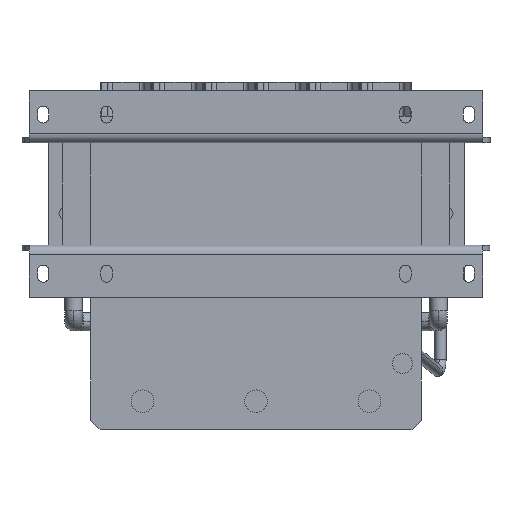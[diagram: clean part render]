
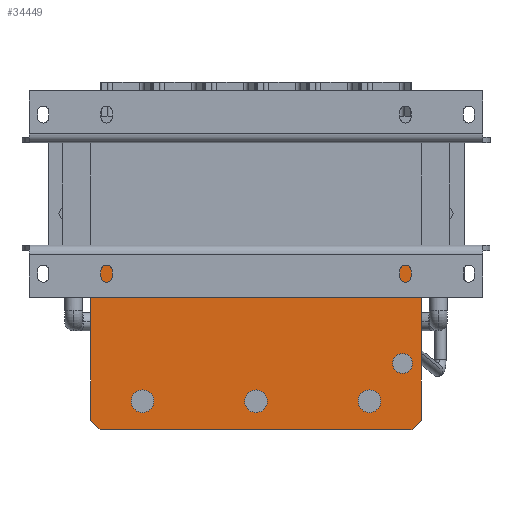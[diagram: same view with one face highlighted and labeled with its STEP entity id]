
A CAD part, front view. The second image highlights one B-rep face of the part: STEP entity #34449.
In plain terms, the highlighted planar face has unit normal (0, -1, 0).
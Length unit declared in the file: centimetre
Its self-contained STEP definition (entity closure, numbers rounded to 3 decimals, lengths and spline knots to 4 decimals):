
#328 = VERTEX_POINT ( 'NONE', #19195 ) ;
#551 = CARTESIAN_POINT ( 'NONE',  ( 0., 6.23, -21.915 ) ) ;
#855 = ORIENTED_EDGE ( 'NONE', *, *, #23380, .F. ) ;
#1617 = FACE_BOUND ( 'NONE', #24390, .T. ) ;
#1691 = CARTESIAN_POINT ( 'NONE',  ( 0., 6.23, -20.715 ) ) ;
#2531 = CARTESIAN_POINT ( 'NONE',  ( 17.5, 6.23, -23.915 ) ) ;
#3051 = VERTEX_POINT ( 'NONE', #11539 ) ;
#3244 = DIRECTION ( 'NONE',  ( 0., -1., 0. ) ) ;
#3382 = AXIS2_PLACEMENT_3D ( 'NONE', #551, #11335, #37464 ) ;
#3612 = EDGE_CURVE ( 'NONE', #3051, #18095, #20351, .T. ) ;
#3657 = CARTESIAN_POINT ( 'NONE',  ( -17.5, 6.23, -23.915 ) ) ;
#3889 = ORIENTED_EDGE ( 'NONE', *, *, #14492, .T. ) ;
#3925 = VECTOR ( 'NONE', #33880, 100. ) ;
#4267 = AXIS2_PLACEMENT_3D ( 'NONE', #9110, #23662, #19542 ) ;
#4675 = VERTEX_POINT ( 'NONE', #13577 ) ;
#4972 = EDGE_LOOP ( 'NONE', ( #12529, #3889, #37150, #10847, #15963, #7755 ) ) ;
#5046 = FACE_BOUND ( 'NONE', #7833, .T. ) ;
#5123 = LINE ( 'NONE', #36342, #5289 ) ;
#5247 = DIRECTION ( 'NONE',  ( -1., 0., 0. ) ) ;
#5289 = VECTOR ( 'NONE', #30457, 100. ) ;
#5317 = LINE ( 'NONE', #22311, #3925 ) ;
#5455 = ORIENTED_EDGE ( 'NONE', *, *, #26991, .F. ) ;
#6029 = DIRECTION ( 'NONE',  ( 0., 0., 1. ) ) ;
#7123 = VECTOR ( 'NONE', #14047, 100. ) ;
#7300 = DIRECTION ( 'NONE',  ( 0., 0., -1. ) ) ;
#7755 = ORIENTED_EDGE ( 'NONE', *, *, #10425, .T. ) ;
#7833 = EDGE_LOOP ( 'NONE', ( #16557, #5455 ) ) ;
#8090 = ORIENTED_EDGE ( 'NONE', *, *, #12636, .F. ) ;
#8246 = CIRCLE ( 'NONE', #34234, 1.2 ) ;
#9110 = CARTESIAN_POINT ( 'NONE',  ( 15.5, 6.23, -17.915 ) ) ;
#10006 = CIRCLE ( 'NONE', #3382, 1.2 ) ;
#10262 = CARTESIAN_POINT ( 'NONE',  ( -12., 6.23, -21.915 ) ) ;
#10315 = EDGE_CURVE ( 'NONE', #35866, #17818, #21487, .T. ) ;
#10425 = EDGE_CURVE ( 'NONE', #29152, #27342, #12802, .T. ) ;
#10707 = DIRECTION ( 'NONE',  ( 0.707, 0., 0.707 ) ) ;
#10847 = ORIENTED_EDGE ( 'NONE', *, *, #10315, .T. ) ;
#10884 = CARTESIAN_POINT ( 'NONE',  ( 0., 6.23, 0. ) ) ;
#11335 = DIRECTION ( 'NONE',  ( 0., -1., 0. ) ) ;
#11539 = CARTESIAN_POINT ( 'NONE',  ( 0., 6.23, -23.115 ) ) ;
#12529 = ORIENTED_EDGE ( 'NONE', *, *, #21436, .T. ) ;
#12636 = EDGE_CURVE ( 'NONE', #14921, #328, #13012, .T. ) ;
#12712 = VERTEX_POINT ( 'NONE', #22151 ) ;
#12802 = LINE ( 'NONE', #16181, #23077 ) ;
#13012 = CIRCLE ( 'NONE', #36582, 1.2 ) ;
#13065 = CARTESIAN_POINT ( 'NONE',  ( -17.5, 6.23, -6.915 ) ) ;
#13577 = CARTESIAN_POINT ( 'NONE',  ( 12., 6.23, -23.115 ) ) ;
#13638 = DIRECTION ( 'NONE',  ( 0., 0., 1. ) ) ;
#13695 = ORIENTED_EDGE ( 'NONE', *, *, #15336, .F. ) ;
#13712 = PLANE ( 'NONE',  #15154 ) ;
#14047 = DIRECTION ( 'NONE',  ( 0., 0., 1. ) ) ;
#14363 = VERTEX_POINT ( 'NONE', #18927 ) ;
#14492 = EDGE_CURVE ( 'NONE', #31396, #21739, #5123, .T. ) ;
#14921 = VERTEX_POINT ( 'NONE', #32710 ) ;
#15154 = AXIS2_PLACEMENT_3D ( 'NONE', #10884, #33787, #31117 ) ;
#15336 = EDGE_CURVE ( 'NONE', #328, #14921, #8246, .T. ) ;
#15963 = ORIENTED_EDGE ( 'NONE', *, *, #28457, .F. ) ;
#16181 = CARTESIAN_POINT ( 'NONE',  ( 16.5, 6.23, -24.915 ) ) ;
#16557 = ORIENTED_EDGE ( 'NONE', *, *, #37285, .F. ) ;
#16880 = AXIS2_PLACEMENT_3D ( 'NONE', #31931, #22645, #6029 ) ;
#16951 = LINE ( 'NONE', #31137, #22650 ) ;
#17207 = DIRECTION ( 'NONE',  ( 0., 0., 1. ) ) ;
#17818 = VERTEX_POINT ( 'NONE', #30913 ) ;
#18095 = VERTEX_POINT ( 'NONE', #1691 ) ;
#18272 = ORIENTED_EDGE ( 'NONE', *, *, #21202, .F. ) ;
#18370 = CIRCLE ( 'NONE', #34113, 1.05 ) ;
#18518 = EDGE_CURVE ( 'NONE', #18095, #3051, #10006, .T. ) ;
#18927 = CARTESIAN_POINT ( 'NONE',  ( 12., 6.23, -20.715 ) ) ;
#19144 = AXIS2_PLACEMENT_3D ( 'NONE', #24839, #36396, #29957 ) ;
#19195 = CARTESIAN_POINT ( 'NONE',  ( -12., 6.23, -20.715 ) ) ;
#19389 = EDGE_LOOP ( 'NONE', ( #31068, #35274 ) ) ;
#19542 = DIRECTION ( 'NONE',  ( 0., 0., -1. ) ) ;
#19572 = FACE_BOUND ( 'NONE', #19389, .T. ) ;
#20233 = CARTESIAN_POINT ( 'NONE',  ( -12., 6.23, -21.915 ) ) ;
#20351 = CIRCLE ( 'NONE', #36089, 1.2 ) ;
#20494 = CARTESIAN_POINT ( 'NONE',  ( 17.5, 6.23, -23.915 ) ) ;
#20544 = DIRECTION ( 'NONE',  ( 0., -1., 0. ) ) ;
#21202 = EDGE_CURVE ( 'NONE', #4675, #14363, #35477, .T. ) ;
#21436 = EDGE_CURVE ( 'NONE', #27342, #31396, #28428, .T. ) ;
#21487 = LINE ( 'NONE', #33045, #33986 ) ;
#21739 = VERTEX_POINT ( 'NONE', #13065 ) ;
#22151 = CARTESIAN_POINT ( 'NONE',  ( 15.5, 6.23, -16.865 ) ) ;
#22311 = CARTESIAN_POINT ( 'NONE',  ( -17.5, 6.23, -23.915 ) ) ;
#22645 = DIRECTION ( 'NONE',  ( 0., -1., 0. ) ) ;
#22650 = VECTOR ( 'NONE', #5247, 100. ) ;
#23077 = VECTOR ( 'NONE', #10707, 100. ) ;
#23199 = CARTESIAN_POINT ( 'NONE',  ( 0., 6.23, -21.915 ) ) ;
#23380 = EDGE_CURVE ( 'NONE', #14363, #4675, #33202, .T. ) ;
#23662 = DIRECTION ( 'NONE',  ( 0., -1., 0. ) ) ;
#24024 = EDGE_LOOP ( 'NONE', ( #855, #18272 ) ) ;
#24172 = CIRCLE ( 'NONE', #4267, 1.05 ) ;
#24390 = EDGE_LOOP ( 'NONE', ( #13695, #8090 ) ) ;
#24710 = VERTEX_POINT ( 'NONE', #29971 ) ;
#24839 = CARTESIAN_POINT ( 'NONE',  ( 12., 6.23, -21.915 ) ) ;
#25366 = DIRECTION ( 'NONE',  ( 0., -1., 0. ) ) ;
#26991 = EDGE_CURVE ( 'NONE', #12712, #24710, #18370, .T. ) ;
#27168 = DIRECTION ( 'NONE',  ( 0.707, 0., -0.707 ) ) ;
#27342 = VERTEX_POINT ( 'NONE', #20494 ) ;
#27530 = DIRECTION ( 'NONE',  ( 0., -1., 0. ) ) ;
#27540 = FACE_OUTER_BOUND ( 'NONE', #4972, .T. ) ;
#27907 = CARTESIAN_POINT ( 'NONE',  ( 15.5, 6.23, -17.915 ) ) ;
#28097 = FACE_BOUND ( 'NONE', #24024, .T. ) ;
#28101 = EDGE_CURVE ( 'NONE', #21739, #35866, #5317, .T. ) ;
#28428 = LINE ( 'NONE', #2531, #7123 ) ;
#28457 = EDGE_CURVE ( 'NONE', #29152, #17818, #16951, .T. ) ;
#29152 = VERTEX_POINT ( 'NONE', #29883 ) ;
#29883 = CARTESIAN_POINT ( 'NONE',  ( 16.5, 6.23, -24.915 ) ) ;
#29957 = DIRECTION ( 'NONE',  ( 0., 0., 1. ) ) ;
#29971 = CARTESIAN_POINT ( 'NONE',  ( 15.5, 6.23, -18.965 ) ) ;
#30457 = DIRECTION ( 'NONE',  ( -1., 0., 0. ) ) ;
#30913 = CARTESIAN_POINT ( 'NONE',  ( -16.5, 6.23, -24.915 ) ) ;
#31068 = ORIENTED_EDGE ( 'NONE', *, *, #18518, .F. ) ;
#31117 = DIRECTION ( 'NONE',  ( 0., 0., -1. ) ) ;
#31137 = CARTESIAN_POINT ( 'NONE',  ( 17.5, 6.23, -24.915 ) ) ;
#31396 = VERTEX_POINT ( 'NONE', #33490 ) ;
#31931 = CARTESIAN_POINT ( 'NONE',  ( 12., 6.23, -21.915 ) ) ;
#32106 = DIRECTION ( 'NONE',  ( 0., 0., 1. ) ) ;
#32710 = CARTESIAN_POINT ( 'NONE',  ( -12., 6.23, -23.115 ) ) ;
#33045 = CARTESIAN_POINT ( 'NONE',  ( -17.5, 6.23, -23.915 ) ) ;
#33202 = CIRCLE ( 'NONE', #16880, 1.2 ) ;
#33490 = CARTESIAN_POINT ( 'NONE',  ( 17.5, 6.23, -6.915 ) ) ;
#33787 = DIRECTION ( 'NONE',  ( 0., -1., 0. ) ) ;
#33880 = DIRECTION ( 'NONE',  ( 0., 0., -1. ) ) ;
#33986 = VECTOR ( 'NONE', #27168, 100. ) ;
#34113 = AXIS2_PLACEMENT_3D ( 'NONE', #27907, #27530, #7300 ) ;
#34234 = AXIS2_PLACEMENT_3D ( 'NONE', #20233, #3244, #17207 ) ;
#34449 = ADVANCED_FACE ( 'NONE', ( #5046, #27540, #1617, #19572, #28097 ), #13712, .T. ) ;
#35274 = ORIENTED_EDGE ( 'NONE', *, *, #3612, .F. ) ;
#35477 = CIRCLE ( 'NONE', #19144, 1.2 ) ;
#35866 = VERTEX_POINT ( 'NONE', #3657 ) ;
#36089 = AXIS2_PLACEMENT_3D ( 'NONE', #23199, #20544, #32106 ) ;
#36342 = CARTESIAN_POINT ( 'NONE',  ( 17.5, 6.23, -6.915 ) ) ;
#36396 = DIRECTION ( 'NONE',  ( 0., -1., 0. ) ) ;
#36582 = AXIS2_PLACEMENT_3D ( 'NONE', #10262, #25366, #13638 ) ;
#37150 = ORIENTED_EDGE ( 'NONE', *, *, #28101, .T. ) ;
#37285 = EDGE_CURVE ( 'NONE', #24710, #12712, #24172, .T. ) ;
#37464 = DIRECTION ( 'NONE',  ( 0., 0., 1. ) ) ;
